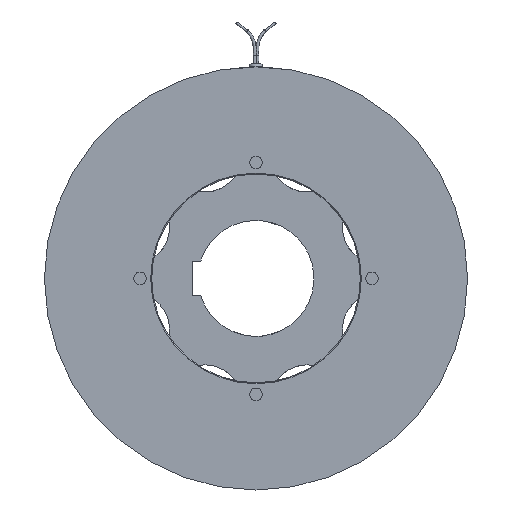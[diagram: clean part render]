
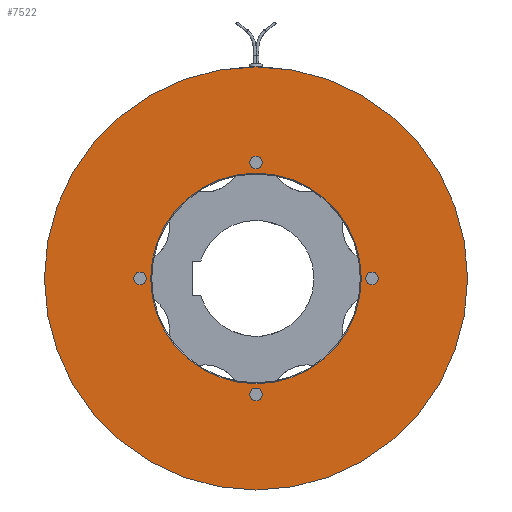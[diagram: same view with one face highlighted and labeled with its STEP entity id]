
A CAD part, left-side view. The second image highlights one B-rep face of the part: STEP entity #7522.
In plain terms, the highlighted planar face has unit normal (-1, 0, 0).
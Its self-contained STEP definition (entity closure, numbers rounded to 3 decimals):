
#141=FACE_BOUND('',#965,.T.);
#142=FACE_BOUND('',#966,.T.);
#143=FACE_BOUND('',#967,.T.);
#144=FACE_BOUND('',#968,.T.);
#145=FACE_BOUND('',#969,.T.);
#256=PLANE('',#8533);
#551=FACE_OUTER_BOUND('',#964,.T.);
#964=EDGE_LOOP('',(#6152,#6153,#6154));
#965=EDGE_LOOP('',(#6155,#6156));
#966=EDGE_LOOP('',(#6157,#6158));
#967=EDGE_LOOP('',(#6159,#6160));
#968=EDGE_LOOP('',(#6161,#6162));
#969=EDGE_LOOP('',(#6163));
#1133=CIRCLE('',#7633,109.5);
#1134=CIRCLE('',#7634,109.5);
#1160=CIRCLE('',#7679,109.5);
#1765=CIRCLE('',#8534,3.25);
#1766=CIRCLE('',#8535,3.25);
#1767=CIRCLE('',#8536,3.25);
#1768=CIRCLE('',#8537,3.25);
#1769=CIRCLE('',#8538,3.25);
#1770=CIRCLE('',#8539,3.25);
#1771=CIRCLE('',#8540,3.25);
#1772=CIRCLE('',#8541,3.25);
#1773=CIRCLE('',#8542,54.5);
#2529=VERTEX_POINT('',#11354);
#2530=VERTEX_POINT('',#11356);
#2531=VERTEX_POINT('',#11358);
#3120=VERTEX_POINT('',#13940);
#3121=VERTEX_POINT('',#13941);
#3122=VERTEX_POINT('',#13944);
#3123=VERTEX_POINT('',#13945);
#3124=VERTEX_POINT('',#13948);
#3125=VERTEX_POINT('',#13949);
#3126=VERTEX_POINT('',#13952);
#3127=VERTEX_POINT('',#13953);
#3128=VERTEX_POINT('',#13956);
#3281=EDGE_CURVE('',#2530,#2529,#1133,.T.);
#3282=EDGE_CURVE('',#2531,#2530,#1134,.T.);
#3334=EDGE_CURVE('',#2529,#2531,#1160,.T.);
#4196=EDGE_CURVE('',#3120,#3121,#1765,.T.);
#4197=EDGE_CURVE('',#3121,#3120,#1766,.T.);
#4198=EDGE_CURVE('',#3122,#3123,#1767,.T.);
#4199=EDGE_CURVE('',#3123,#3122,#1768,.T.);
#4200=EDGE_CURVE('',#3124,#3125,#1769,.T.);
#4201=EDGE_CURVE('',#3125,#3124,#1770,.T.);
#4202=EDGE_CURVE('',#3126,#3127,#1771,.T.);
#4203=EDGE_CURVE('',#3127,#3126,#1772,.T.);
#4204=EDGE_CURVE('',#3128,#3128,#1773,.T.);
#6152=ORIENTED_EDGE('',*,*,#3281,.T.);
#6153=ORIENTED_EDGE('',*,*,#3334,.T.);
#6154=ORIENTED_EDGE('',*,*,#3282,.T.);
#6155=ORIENTED_EDGE('',*,*,#4196,.T.);
#6156=ORIENTED_EDGE('',*,*,#4197,.T.);
#6157=ORIENTED_EDGE('',*,*,#4198,.T.);
#6158=ORIENTED_EDGE('',*,*,#4199,.T.);
#6159=ORIENTED_EDGE('',*,*,#4200,.T.);
#6160=ORIENTED_EDGE('',*,*,#4201,.T.);
#6161=ORIENTED_EDGE('',*,*,#4202,.T.);
#6162=ORIENTED_EDGE('',*,*,#4203,.T.);
#6163=ORIENTED_EDGE('',*,*,#4204,.F.);
#7522=ADVANCED_FACE('',(#551,#141,#142,#143,#144,#145),#256,.T.);
#7633=AXIS2_PLACEMENT_3D('',#11357,#8775,#8776);
#7634=AXIS2_PLACEMENT_3D('',#11359,#8777,#8778);
#7679=AXIS2_PLACEMENT_3D('',#11766,#8882,#8883);
#8533=AXIS2_PLACEMENT_3D('',#13939,#10795,#10796);
#8534=AXIS2_PLACEMENT_3D('',#13942,#10797,#10798);
#8535=AXIS2_PLACEMENT_3D('',#13943,#10799,#10800);
#8536=AXIS2_PLACEMENT_3D('',#13946,#10801,#10802);
#8537=AXIS2_PLACEMENT_3D('',#13947,#10803,#10804);
#8538=AXIS2_PLACEMENT_3D('',#13950,#10805,#10806);
#8539=AXIS2_PLACEMENT_3D('',#13951,#10807,#10808);
#8540=AXIS2_PLACEMENT_3D('',#13954,#10809,#10810);
#8541=AXIS2_PLACEMENT_3D('',#13955,#10811,#10812);
#8542=AXIS2_PLACEMENT_3D('',#13957,#10813,#10814);
#8775=DIRECTION('center_axis',(-1.,0.,0.));
#8776=DIRECTION('ref_axis',(0.,1.,0.));
#8777=DIRECTION('center_axis',(-1.,0.,0.));
#8778=DIRECTION('ref_axis',(0.,1.,0.));
#8882=DIRECTION('center_axis',(-1.,0.,0.));
#8883=DIRECTION('ref_axis',(0.,1.,0.));
#10795=DIRECTION('center_axis',(-1.,0.,0.));
#10796=DIRECTION('ref_axis',(0.,0.,
1.));
#10797=DIRECTION('center_axis',(1.,0.,0.));
#10798=DIRECTION('ref_axis',(0.,0.,
1.));
#10799=DIRECTION('center_axis',(1.,0.,0.));
#10800=DIRECTION('ref_axis',(0.,0.,
1.));
#10801=DIRECTION('center_axis',(1.,0.,0.));
#10802=DIRECTION('ref_axis',(0.,0.,
1.));
#10803=DIRECTION('center_axis',(1.,0.,0.));
#10804=DIRECTION('ref_axis',(0.,0.,
1.));
#10805=DIRECTION('center_axis',(1.,0.,0.));
#10806=DIRECTION('ref_axis',(0.,0.,
1.));
#10807=DIRECTION('center_axis',(1.,0.,0.));
#10808=DIRECTION('ref_axis',(0.,0.,
1.));
#10809=DIRECTION('center_axis',(1.,0.,0.));
#10810=DIRECTION('ref_axis',(0.,0.,
1.));
#10811=DIRECTION('center_axis',(1.,0.,0.));
#10812=DIRECTION('ref_axis',(0.,0.,
1.));
#10813=DIRECTION('center_axis',(-1.,0.,0.));
#10814=DIRECTION('ref_axis',(0.,-1.,0.));
#11354=CARTESIAN_POINT('',(-18.,-109.5,0.));
#11356=CARTESIAN_POINT('',(-18.,109.5,0.));
#11357=CARTESIAN_POINT('Origin',(-18.,0.,0.));
#11358=CARTESIAN_POINT('',(-18.,0.,109.5));
#11359=CARTESIAN_POINT('Origin',(-18.,0.,0.));
#11766=CARTESIAN_POINT('Origin',(-18.,0.,0.));
#13939=CARTESIAN_POINT('Origin',(-18.,81.75,0.));
#13940=CARTESIAN_POINT('',(-18.,0.,-56.75));
#13941=CARTESIAN_POINT('',(-18.,0.,-63.25));
#13942=CARTESIAN_POINT('Origin',(-18.,0.,-60.));
#13943=CARTESIAN_POINT('Origin',(-18.,0.,-60.));
#13944=CARTESIAN_POINT('',(-18.,0.,63.25));
#13945=CARTESIAN_POINT('',(-18.,0.,56.75));
#13946=CARTESIAN_POINT('Origin',(-18.,0.,60.));
#13947=CARTESIAN_POINT('Origin',(-18.,0.,60.));
#13948=CARTESIAN_POINT('',(-18.,60.,3.25));
#13949=CARTESIAN_POINT('',(-18.,60.,-3.25));
#13950=CARTESIAN_POINT('Origin',(-18.,60.,0.));
#13951=CARTESIAN_POINT('Origin',(-18.,60.,0.));
#13952=CARTESIAN_POINT('',(-18.,-60.,3.25));
#13953=CARTESIAN_POINT('',(-18.,-60.,-3.25));
#13954=CARTESIAN_POINT('Origin',(-18.,-60.,0.));
#13955=CARTESIAN_POINT('Origin',(-18.,-60.,0.));
#13956=CARTESIAN_POINT('',(-18.,54.5,0.));
#13957=CARTESIAN_POINT('Origin',(-18.,0.,0.));
